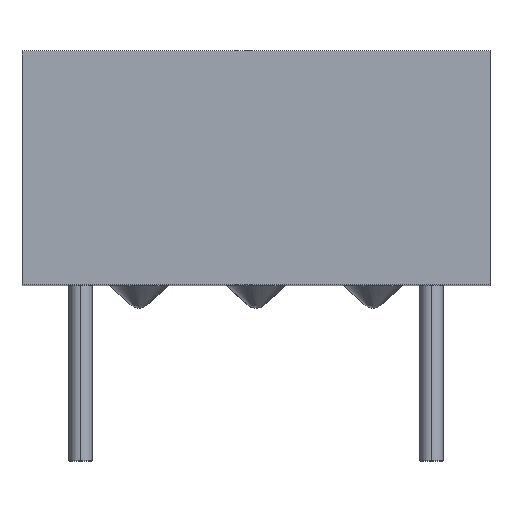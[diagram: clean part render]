
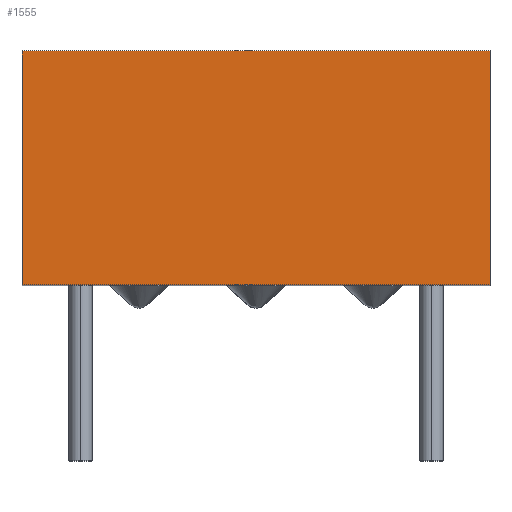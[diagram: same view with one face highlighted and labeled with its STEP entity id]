
A CAD part, top view. The second image highlights one B-rep face of the part: STEP entity #1555.
In plain terms, the highlighted planar face has unit normal (0, 0, 1).
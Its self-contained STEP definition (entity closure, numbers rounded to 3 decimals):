
#12 = VERTEX_POINT ( 'NONE', #1324 ) ;
#48 = VECTOR ( 'NONE', #63, 1000. ) ;
#63 = DIRECTION ( 'NONE',  ( 1., 0., 0. ) ) ;
#117 = CARTESIAN_POINT ( 'NONE',  ( 5.08, 5.08, 3.81 ) ) ;
#189 = ORIENTED_EDGE ( 'NONE', *, *, #1282, .F. ) ;
#252 = LINE ( 'NONE', #1246, #1252 ) ;
#327 = PLANE ( 'NONE',  #595 ) ;
#582 = DIRECTION ( 'NONE',  ( -1., 0., 0. ) ) ;
#595 = AXIS2_PLACEMENT_3D ( 'NONE', #1202, #1331, #582 ) ;
#626 = DIRECTION ( 'NONE',  ( 1., 0., 0. ) ) ;
#632 = CARTESIAN_POINT ( 'NONE',  ( 5.08, 5.08, 3.81 ) ) ;
#666 = VECTOR ( 'NONE', #1437, 1000. ) ;
#672 = VERTEX_POINT ( 'NONE', #1181 ) ;
#675 = EDGE_CURVE ( 'NONE', #12, #1029, #1336, .T. ) ;
#934 = ORIENTED_EDGE ( 'NONE', *, *, #675, .T. ) ;
#988 = CARTESIAN_POINT ( 'NONE',  ( -5.08, 0., 3.81 ) ) ;
#1029 = VERTEX_POINT ( 'NONE', #988 ) ;
#1056 = CARTESIAN_POINT ( 'NONE',  ( -5.08, 5.08, 3.81 ) ) ;
#1161 = ORIENTED_EDGE ( 'NONE', *, *, #1447, .F. ) ;
#1174 = ORIENTED_EDGE ( 'NONE', *, *, #1283, .T. ) ;
#1181 = CARTESIAN_POINT ( 'NONE',  ( 5.08, 0., 3.81 ) ) ;
#1202 = CARTESIAN_POINT ( 'NONE',  ( -5.08, 5.08, 3.81 ) ) ;
#1209 = VECTOR ( 'NONE', #1377, 1000. ) ;
#1246 = CARTESIAN_POINT ( 'NONE',  ( -5.08, 0., 3.81 ) ) ;
#1252 = VECTOR ( 'NONE', #626, 1000. ) ;
#1282 = EDGE_CURVE ( 'NONE', #1308, #672, #1542, .T. ) ;
#1283 = EDGE_CURVE ( 'NONE', #1029, #672, #252, .T. ) ;
#1308 = VERTEX_POINT ( 'NONE', #632 ) ;
#1324 = CARTESIAN_POINT ( 'NONE',  ( -5.08, 5.08, 3.81 ) ) ;
#1331 = DIRECTION ( 'NONE',  ( 0., 0., -1. ) ) ;
#1336 = LINE ( 'NONE', #1056, #666 ) ;
#1377 = DIRECTION ( 'NONE',  ( 0., -1., 0. ) ) ;
#1393 = LINE ( 'NONE', #1566, #48 ) ;
#1404 = FACE_OUTER_BOUND ( 'NONE', #1471, .T. ) ;
#1437 = DIRECTION ( 'NONE',  ( 0., -1., 0. ) ) ;
#1447 = EDGE_CURVE ( 'NONE', #12, #1308, #1393, .T. ) ;
#1471 = EDGE_LOOP ( 'NONE', ( #1174, #189, #1161, #934 ) ) ;
#1542 = LINE ( 'NONE', #117, #1209 ) ;
#1555 = ADVANCED_FACE ( 'NONE', ( #1404 ), #327, .F. ) ;
#1566 = CARTESIAN_POINT ( 'NONE',  ( -5.08, 5.08, 3.81 ) ) ;
